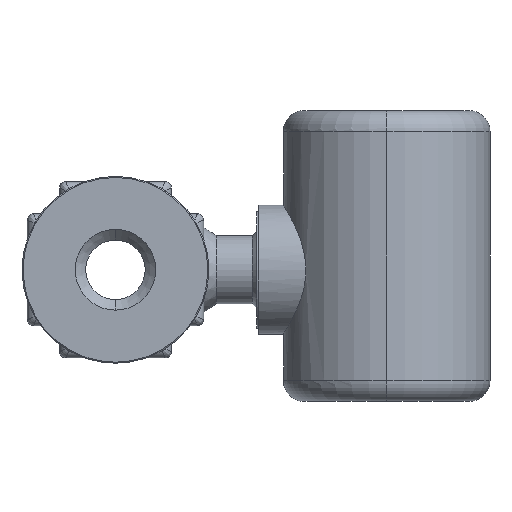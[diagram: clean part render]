
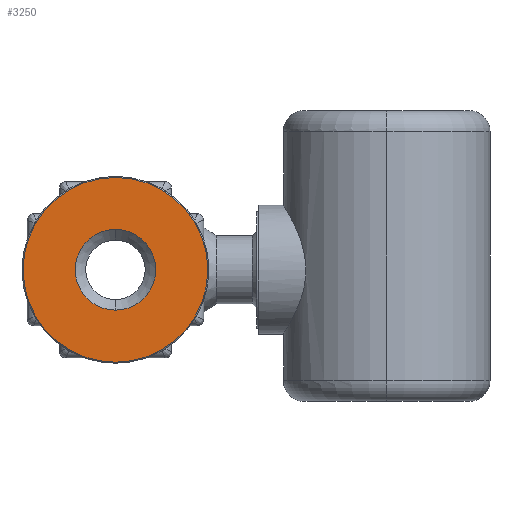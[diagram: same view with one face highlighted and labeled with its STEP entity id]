
A CAD part, left-side view. The second image highlights one B-rep face of the part: STEP entity #3250.
In plain terms, the highlighted planar face has unit normal (-1, 0, 0).
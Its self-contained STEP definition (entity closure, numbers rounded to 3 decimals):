
#174 = FACE_BOUND ( 'NONE', #1402, .T. ) ;
#214 = AXIS2_PLACEMENT_3D ( 'NONE', #5226, #2383, #4836 ) ;
#251 = CARTESIAN_POINT ( 'NONE',  ( -64., 0., 0. ) ) ;
#278 = CARTESIAN_POINT ( 'NONE',  ( -64., 0., -43.5 ) ) ;
#304 = FACE_OUTER_BOUND ( 'NONE', #2675, .T. ) ;
#417 = EDGE_CURVE ( 'NONE', #4670, #5149, #1562, .T. ) ;
#680 = DIRECTION ( 'NONE',  ( 0., 0., 1. ) ) ;
#691 = AXIS2_PLACEMENT_3D ( 'NONE', #3858, #1399, #4278 ) ;
#1270 = CIRCLE ( 'NONE', #1282, 43.5 ) ;
#1282 = AXIS2_PLACEMENT_3D ( 'NONE', #251, #3151, #680 ) ;
#1399 = DIRECTION ( 'NONE',  ( -1., 0., 0. ) ) ;
#1402 = EDGE_LOOP ( 'NONE', ( #4222, #2298 ) ) ;
#1460 = CARTESIAN_POINT ( 'NONE',  ( -64., 0., -19. ) ) ;
#1505 = VERTEX_POINT ( 'NONE', #2173 ) ;
#1540 = AXIS2_PLACEMENT_3D ( 'NONE', #5263, #4479, #2023 ) ;
#1562 = CIRCLE ( 'NONE', #214, 43.5 ) ;
#1617 = ORIENTED_EDGE ( 'NONE', *, *, #417, .T. ) ;
#1688 = VERTEX_POINT ( 'NONE', #1460 ) ;
#1723 = DIRECTION ( 'NONE',  ( -1., 0., 0. ) ) ;
#2023 = DIRECTION ( 'NONE',  ( 0., 0., -1. ) ) ;
#2173 = CARTESIAN_POINT ( 'NONE',  ( -64., 0., 19. ) ) ;
#2298 = ORIENTED_EDGE ( 'NONE', *, *, #2813, .F. ) ;
#2383 = DIRECTION ( 'NONE',  ( -1., 0., 0. ) ) ;
#2675 = EDGE_LOOP ( 'NONE', ( #4028, #1617 ) ) ;
#2688 = CIRCLE ( 'NONE', #3486, 19. ) ;
#2813 = EDGE_CURVE ( 'NONE', #1688, #1505, #2834, .T. ) ;
#2834 = CIRCLE ( 'NONE', #691, 19. ) ;
#3041 = CARTESIAN_POINT ( 'NONE',  ( -64., 0., 43.5 ) ) ;
#3151 = DIRECTION ( 'NONE',  ( -1., 0., 0. ) ) ;
#3250 = ADVANCED_FACE ( 'NONE', ( #174, #304 ), #3644, .F. ) ;
#3486 = AXIS2_PLACEMENT_3D ( 'NONE', #4167, #1723, #4580 ) ;
#3644 = PLANE ( 'NONE',  #1540 ) ;
#3858 = CARTESIAN_POINT ( 'NONE',  ( -64., 0., 0. ) ) ;
#4028 = ORIENTED_EDGE ( 'NONE', *, *, #4494, .T. ) ;
#4167 = CARTESIAN_POINT ( 'NONE',  ( -64., 0., 0. ) ) ;
#4222 = ORIENTED_EDGE ( 'NONE', *, *, #4537, .F. ) ;
#4278 = DIRECTION ( 'NONE',  ( 0., 0., 1. ) ) ;
#4479 = DIRECTION ( 'NONE',  ( 1., 0., 0. ) ) ;
#4494 = EDGE_CURVE ( 'NONE', #5149, #4670, #1270, .T. ) ;
#4537 = EDGE_CURVE ( 'NONE', #1505, #1688, #2688, .T. ) ;
#4580 = DIRECTION ( 'NONE',  ( 0., 0., 1. ) ) ;
#4670 = VERTEX_POINT ( 'NONE', #3041 ) ;
#4836 = DIRECTION ( 'NONE',  ( 0., 0., 1. ) ) ;
#5149 = VERTEX_POINT ( 'NONE', #278 ) ;
#5226 = CARTESIAN_POINT ( 'NONE',  ( -64., 0., 0. ) ) ;
#5263 = CARTESIAN_POINT ( 'NONE',  ( -64., 43.5, 0. ) ) ;
